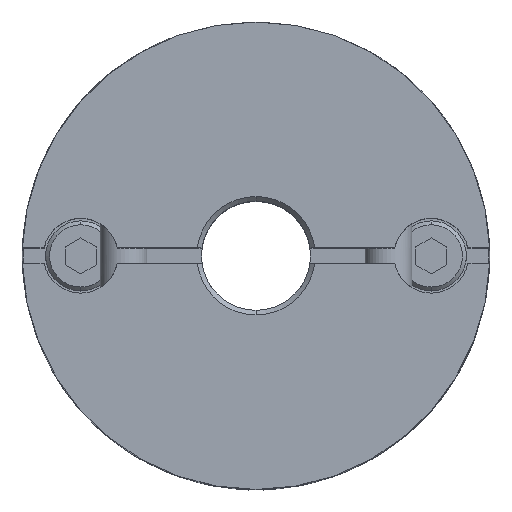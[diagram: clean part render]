
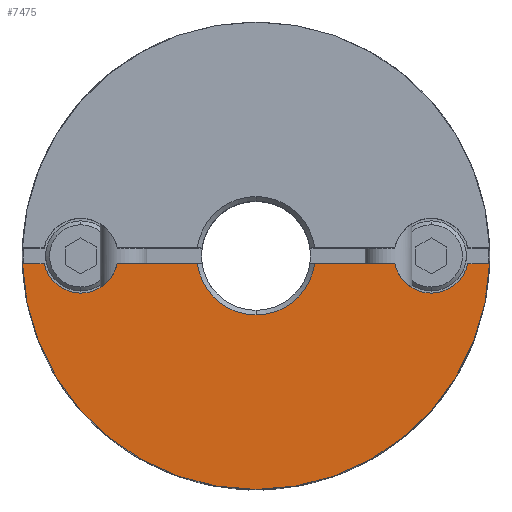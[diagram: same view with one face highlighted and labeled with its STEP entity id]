
A CAD part, top view. The second image highlights one B-rep face of the part: STEP entity #7475.
In plain terms, the highlighted planar face has unit normal (0, 0, 1).
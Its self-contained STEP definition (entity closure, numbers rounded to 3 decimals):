
#622=CARTESIAN_POINT('',(0.,-15.0,11.8));
#623=VERTEX_POINT('',#622);
#630=CARTESIAN_POINT('',(-14.992,-0.5,11.8));
#631=VERTEX_POINT('',#630);
#632=CARTESIAN_POINT('',(0.0,0.0,11.8));
#633=DIRECTION('',(0.0,0.0,-1.0));
#634=DIRECTION('',(0.0,1.0,0.0));
#635=AXIS2_PLACEMENT_3D('',#632,#633,#634);
#636=CIRCLE('',#635,15.0);
#637=EDGE_CURVE('',#623,#631,#636,.T.);
#1032=CARTESIAN_POINT('',(0.,-3.8,11.8));
#1033=VERTEX_POINT('',#1032);
#1041=CARTESIAN_POINT('',(-3.767,-0.5,11.8));
#1042=VERTEX_POINT('',#1041);
#1056=CARTESIAN_POINT('',(0.0,0.0,11.8));
#1057=DIRECTION('',(0.0,0.0,1.0));
#1058=DIRECTION('',(0.0,-1.0,0.0));
#1059=AXIS2_PLACEMENT_3D('',#1056,#1057,#1058);
#1060=CIRCLE('',#1059,3.8);
#1061=EDGE_CURVE('',#1042,#1033,#1060,.T.);
#1353=CARTESIAN_POINT('',(-11.25,-2.4,11.8));
#1354=VERTEX_POINT('',#1353);
#1370=CARTESIAN_POINT('',(-13.597,-0.5,11.8));
#1371=VERTEX_POINT('',#1370);
#1378=CARTESIAN_POINT('',(-11.25,0.,11.8));
#1379=DIRECTION('',(0.0,0.0,-1.0));
#1380=DIRECTION('',(0.0,1.0,0.0));
#1381=AXIS2_PLACEMENT_3D('',#1378,#1379,#1380);
#1382=CIRCLE('',#1381,2.4);
#1383=EDGE_CURVE('',#1354,#1371,#1382,.T.);
#1585=CARTESIAN_POINT('',(11.25,-2.4,11.8));
#1586=VERTEX_POINT('',#1585);
#1652=CARTESIAN_POINT('',(8.903,-0.5,11.8));
#1653=VERTEX_POINT('',#1652);
#1660=CARTESIAN_POINT('',(11.25,0.,11.8));
#1661=DIRECTION('',(0.0,0.0,-1.0));
#1662=DIRECTION('',(0.0,1.0,0.0));
#1663=AXIS2_PLACEMENT_3D('',#1660,#1661,#1662);
#1664=CIRCLE('',#1663,2.4);
#1665=EDGE_CURVE('',#1586,#1653,#1664,.T.);
#5973=CARTESIAN_POINT('',(13.597,-0.5,11.8));
#5974=VERTEX_POINT('',#5973);
#5975=CARTESIAN_POINT('',(11.25,0.,11.8));
#5976=DIRECTION('',(0.0,0.0,-1.0));
#5977=DIRECTION('',(0.0,1.0,0.0));
#5978=AXIS2_PLACEMENT_3D('',#5975,#5976,#5977);
#5979=CIRCLE('',#5978,2.4);
#5980=EDGE_CURVE('',#5974,#1586,#5979,.T.);
#6380=CARTESIAN_POINT('',(-8.903,-0.5,11.8));
#6381=VERTEX_POINT('',#6380);
#6382=CARTESIAN_POINT('',(-11.25,0.,11.8));
#6383=DIRECTION('',(0.0,0.0,-1.0));
#6384=DIRECTION('',(0.0,1.0,0.0));
#6385=AXIS2_PLACEMENT_3D('',#6382,#6383,#6384);
#6386=CIRCLE('',#6385,2.4);
#6387=EDGE_CURVE('',#6381,#1354,#6386,.T.);
#6510=CARTESIAN_POINT('',(-3.767,-0.5,11.8));
#6511=DIRECTION('',(-1.0,0.0,0.0));
#6512=VECTOR('',#6511,5.136);
#6513=LINE('',#6510,#6512);
#6514=EDGE_CURVE('',#1042,#6381,#6513,.T.);
#6627=CARTESIAN_POINT('',(3.767,-0.5,11.8));
#6628=VERTEX_POINT('',#6627);
#6642=CARTESIAN_POINT('',(8.903,-0.5,11.8));
#6643=DIRECTION('',(-1.0,0.0,0.0));
#6644=VECTOR('',#6643,5.136);
#6645=LINE('',#6642,#6644);
#6646=EDGE_CURVE('',#1653,#6628,#6645,.T.);
#7222=CARTESIAN_POINT('',(14.992,-0.5,11.8));
#7223=VERTEX_POINT('',#7222);
#7224=CARTESIAN_POINT('',(14.992,-0.5,11.8));
#7225=DIRECTION('',(-1.0,0.0,0.0));
#7226=VECTOR('',#7225,1.394);
#7227=LINE('',#7224,#7226);
#7228=EDGE_CURVE('',#7223,#5974,#7227,.T.);
#7342=CARTESIAN_POINT('',(-13.597,-0.5,11.8));
#7343=DIRECTION('',(-1.0,0.0,0.0));
#7344=VECTOR('',#7343,1.394);
#7345=LINE('',#7342,#7344);
#7346=EDGE_CURVE('',#1371,#631,#7345,.T.);
#7444=CARTESIAN_POINT('',(0.,1.364,11.8));
#7445=DIRECTION('',(0.0,0.0,1.0));
#7446=DIRECTION('',(0.0,1.0,0.0));
#7447=AXIS2_PLACEMENT_3D('',#7444,#7445,#7446);
#7448=PLANE('',#7447);
#7449=ORIENTED_EDGE('',*,*,#5980,.T.);
#7450=ORIENTED_EDGE('',*,*,#1665,.T.);
#7451=ORIENTED_EDGE('',*,*,#6646,.T.);
#7452=CARTESIAN_POINT('',(0.0,0.0,11.8));
#7453=DIRECTION('',(0.0,0.0,1.0));
#7454=DIRECTION('',(0.0,-1.0,0.0));
#7455=AXIS2_PLACEMENT_3D('',#7452,#7453,#7454);
#7456=CIRCLE('',#7455,3.8);
#7457=EDGE_CURVE('',#1033,#6628,#7456,.T.);
#7458=ORIENTED_EDGE('',*,*,#7457,.F.);
#7459=ORIENTED_EDGE('',*,*,#1061,.F.);
#7460=ORIENTED_EDGE('',*,*,#6514,.T.);
#7461=ORIENTED_EDGE('',*,*,#6387,.T.);
#7462=ORIENTED_EDGE('',*,*,#1383,.T.);
#7463=ORIENTED_EDGE('',*,*,#7346,.T.);
#7464=ORIENTED_EDGE('',*,*,#637,.F.);
#7465=CARTESIAN_POINT('',(0.0,0.0,11.8));
#7466=DIRECTION('',(0.0,0.0,-1.0));
#7467=DIRECTION('',(0.0,1.0,0.0));
#7468=AXIS2_PLACEMENT_3D('',#7465,#7466,#7467);
#7469=CIRCLE('',#7468,15.0);
#7470=EDGE_CURVE('',#7223,#623,#7469,.T.);
#7471=ORIENTED_EDGE('',*,*,#7470,.F.);
#7472=ORIENTED_EDGE('',*,*,#7228,.T.);
#7473=EDGE_LOOP('',(#7449,#7450,#7451,#7458,#7459,#7460,#7461,#7462,#7463,#7464,#7471,#7472));
#7474=FACE_OUTER_BOUND('',#7473,.T.);
#7475=ADVANCED_FACE('',(#7474),#7448,.T.);
